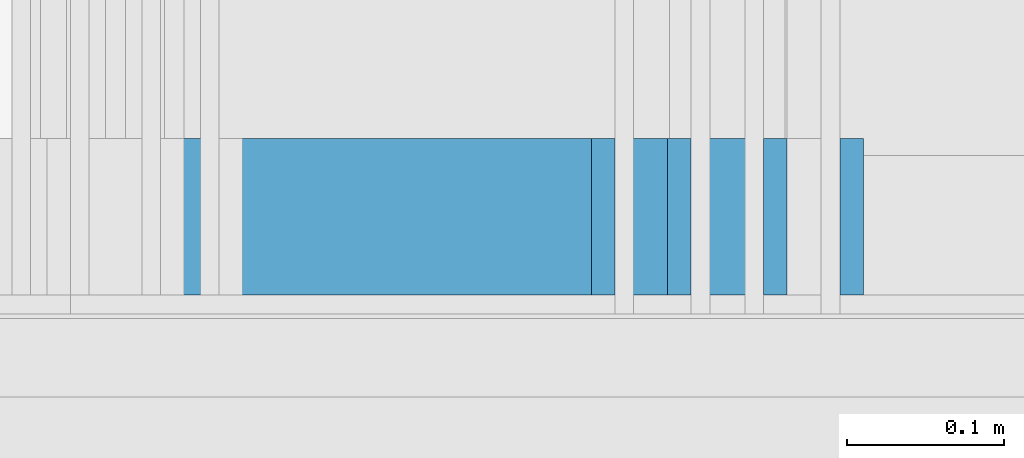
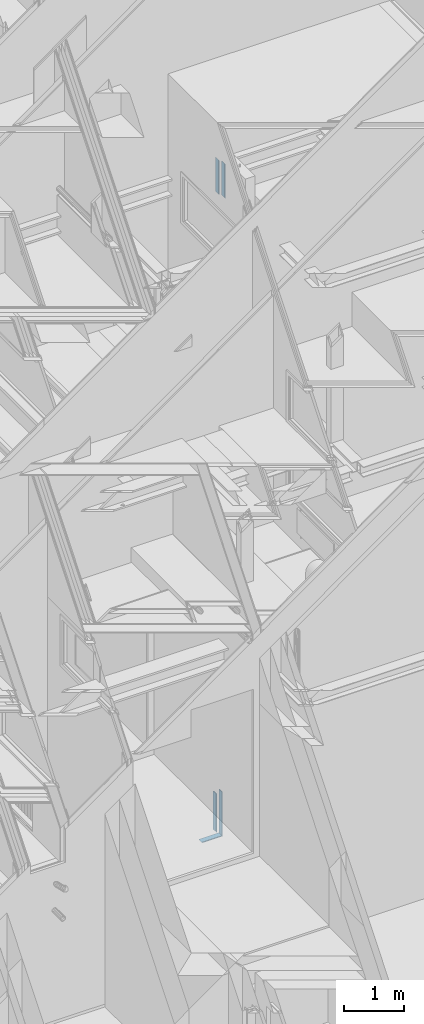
# One storey, part 233 of 583: 5 building element parts, 3 elements without a shape of their own.
"""IFC2X3 building model written with IfcOpenShell, lengths in metres."""

from ifc_helpers import new_model, entity, si_unit, converted_unit, derived_unit, money_unit, direction, frame, origin_with_axes, place, context, subcontext, project, spatial, polyline, outline, extrude, material, type_object, element, aggregate, save


model = new_model("IFC2X3")

# Units and contexts
model_context = context("Model", 3, precision=1e-05, world=origin_with_axes(), true_north=direction((0.0, 1.0)))
body_context = subcontext(model_context, "Body", "Model", "MODEL_VIEW", scale=1.0)
ifc_project = project(units=[si_unit("LENGTHUNIT", "METRE"), si_unit("AREAUNIT", "SQUARE_METRE"), si_unit("VOLUMEUNIT", "CUBIC_METRE"), si_unit("ABSORBEDDOSEUNIT", "GRAY"), si_unit("AMOUNTOFSUBSTANCEUNIT", "MOLE"), si_unit("DOSEEQUIVALENTUNIT", "SIEVERT"), si_unit("ELECTRICCAPACITANCEUNIT", "FARAD"), si_unit("ELECTRICCHARGEUNIT", "COULOMB"), si_unit("ELECTRICCONDUCTANCEUNIT", "SIEMENS"), si_unit("ELECTRICCURRENTUNIT", "AMPERE"), si_unit("ELECTRICRESISTANCEUNIT", "OHM"), si_unit("ELECTRICVOLTAGEUNIT", "VOLT"), si_unit("ENERGYUNIT", "JOULE"), si_unit("FORCEUNIT", "NEWTON"), si_unit("FREQUENCYUNIT", "HERTZ"), si_unit("ILLUMINANCEUNIT", "LUX"), si_unit("INDUCTANCEUNIT", "HENRY"), si_unit("LUMINOUSFLUXUNIT", "LUMEN"), si_unit("LUMINOUSINTENSITYUNIT", "CANDELA"), si_unit("MAGNETICFLUXDENSITYUNIT", "TESLA"), si_unit("MAGNETICFLUXUNIT", "WEBER"), si_unit("MASSUNIT", "GRAM"), converted_unit("PLANEANGLEUNIT", "degree", entity("IfcReal", 0.0174532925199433), si_unit("PLANEANGLEUNIT", "RADIAN"), dimensions=[0, 0, 0, 0, 0, 0, 0]), si_unit("POWERUNIT", "WATT"), si_unit("PRESSUREUNIT", "PASCAL"), si_unit("RADIOACTIVITYUNIT", "BECQUEREL"), si_unit("SOLIDANGLEUNIT", "STERADIAN"), si_unit("THERMODYNAMICTEMPERATUREUNIT", "KELVIN"), si_unit("TIMEUNIT", "SECOND"), derived_unit("ACCELERATIONUNIT", [(si_unit("LENGTHUNIT", "METRE"), 1), (si_unit("TIMEUNIT", "SECOND"), -2)]), derived_unit("ANGULARVELOCITYUNIT", [(converted_unit("PLANEANGLEUNIT", "degree", entity("IfcReal", 0.0174532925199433), si_unit("PLANEANGLEUNIT", "RADIAN"), dimensions=[0, 0, 0, 0, 0, 0, 0]), 1), (si_unit("TIMEUNIT", "SECOND"), -1)]), derived_unit("CURVATUREUNIT", [(converted_unit("PLANEANGLEUNIT", "degree", entity("IfcReal", 0.0174532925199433), si_unit("PLANEANGLEUNIT", "RADIAN"), dimensions=[0, 0, 0, 0, 0, 0, 0]), 1), (si_unit("LENGTHUNIT", "METRE"), -1)]), derived_unit("DYNAMICVISCOSITYUNIT", [(si_unit("PRESSUREUNIT", "PASCAL"), 1), (si_unit("TIMEUNIT", "SECOND"), 1)]), derived_unit("HEATFLUXDENSITYUNIT", [(si_unit("POWERUNIT", "WATT"), 1), (si_unit("LENGTHUNIT", "METRE"), -2)]), derived_unit("HEATINGVALUEUNIT", [(si_unit("ENERGYUNIT", "JOULE"), 1), (si_unit("MASSUNIT", "GRAM"), -1)]), derived_unit("INTEGERCOUNTRATEUNIT", [(si_unit("TIMEUNIT", "SECOND"), -1)]), derived_unit("IONCONCENTRATIONUNIT", [(si_unit("MASSUNIT", "GRAM"), 1), (si_unit("VOLUMEUNIT", "CUBIC_METRE"), -1)]), derived_unit("ISOTHERMALMOISTURECAPACITYUNIT", [(si_unit("VOLUMEUNIT", "CUBIC_METRE"), 1), (si_unit("MASSUNIT", "GRAM"), -1)]), derived_unit("KINEMATICVISCOSITYUNIT", [(si_unit("AREAUNIT", "SQUARE_METRE"), 1), (si_unit("TIMEUNIT", "SECOND"), -1)]), derived_unit("LINEARFORCEUNIT", [(si_unit("FORCEUNIT", "NEWTON"), 1), (si_unit("LENGTHUNIT", "METRE"), -1)]), derived_unit("LINEARMOMENTUNIT", [(si_unit("FORCEUNIT", "NEWTON"), 1), (si_unit("LENGTHUNIT", "METRE"), -1)]), derived_unit("LINEARSTIFFNESSUNIT", [(si_unit("FORCEUNIT", "NEWTON"), 1), (si_unit("LENGTHUNIT", "METRE"), -1)]), derived_unit("LINEARVELOCITYUNIT", [(si_unit("LENGTHUNIT", "METRE"), 1), (si_unit("TIMEUNIT", "SECOND"), -1)]), derived_unit("LUMINOUSINTENSITYDISTRIBUTIONUNIT", [(si_unit("LUMINOUSINTENSITYUNIT", "CANDELA"), 1), (si_unit("LUMINOUSFLUXUNIT", "LUMEN"), -1)]), derived_unit("MASSDENSITYUNIT", [(si_unit("MASSUNIT", "GRAM"), 1), (si_unit("VOLUMEUNIT", "CUBIC_METRE"), -1)]), derived_unit("MASSFLOWRATEUNIT", [(si_unit("MASSUNIT", "GRAM"), 1), (si_unit("TIMEUNIT", "SECOND"), -1)]), derived_unit("MASSPERLENGTHUNIT", [(si_unit("MASSUNIT", "GRAM"), 1), (si_unit("LENGTHUNIT", "METRE"), -1)]), derived_unit("MODULUSOFELASTICITYUNIT", [(si_unit("FORCEUNIT", "NEWTON"), 1), (si_unit("AREAUNIT", "SQUARE_METRE"), -1)]), derived_unit("MODULUSOFLINEARSUBGRADEREACTIONUNIT", [(si_unit("FORCEUNIT", "NEWTON"), 1), (si_unit("LENGTHUNIT", "METRE"), -2)]), derived_unit("MODULUSOFROTATIONALSUBGRADEREACTIONUNIT", [(si_unit("FORCEUNIT", "NEWTON"), 1), (si_unit("LENGTHUNIT", "METRE"), 1)]), derived_unit("MODULUSOFSUBGRADEREACTIONUNIT", [(si_unit("FORCEUNIT", "NEWTON"), 1), (si_unit("VOLUMEUNIT", "CUBIC_METRE"), -1)]), derived_unit("MOISTUREDIFFUSIVITYUNIT", [(si_unit("VOLUMEUNIT", "CUBIC_METRE"), 1), (si_unit("TIMEUNIT", "SECOND"), -1)]), derived_unit("MOLECULARWEIGHTUNIT", [(si_unit("MASSUNIT", "GRAM"), 1), (si_unit("AMOUNTOFSUBSTANCEUNIT", "MOLE"), -1)]), derived_unit("PLANARFORCEUNIT", [(si_unit("FORCEUNIT", "NEWTON"), 1), (si_unit("LENGTHUNIT", "METRE"), -2)]), derived_unit("ROTATIONALFREQUENCYUNIT", [(si_unit("TIMEUNIT", "SECOND"), -1)]), derived_unit("ROTATIONALMASSUNIT", [(si_unit("MASSUNIT", "GRAM"), 1), (si_unit("LENGTHUNIT", "METRE"), 2)]), derived_unit("ROTATIONALSTIFFNESSUNIT", [(si_unit("FORCEUNIT", "NEWTON"), 1), (si_unit("LENGTHUNIT", "METRE"), 1), (converted_unit("PLANEANGLEUNIT", "degree", entity("IfcReal", 0.0174532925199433), si_unit("PLANEANGLEUNIT", "RADIAN"), dimensions=[0, 0, 0, 0, 0, 0, 0]), -1)]), derived_unit("SECTIONAREAINTEGRALUNIT", [(si_unit("LENGTHUNIT", "METRE"), 5)]), derived_unit("SECTIONMODULUSUNIT", [(si_unit("LENGTHUNIT", "METRE"), 3)]), derived_unit("SHEARMODULUSUNIT", [(si_unit("FORCEUNIT", "NEWTON"), 1), (si_unit("AREAUNIT", "SQUARE_METRE"), -1)]), derived_unit("SOUNDPOWERUNIT", [(si_unit("ENERGYUNIT", "JOULE"), 1), (si_unit("TIMEUNIT", "SECOND"), -1)]), derived_unit("SPECIFICHEATCAPACITYUNIT", [(si_unit("FORCEUNIT", "NEWTON"), 1), (si_unit("MASSUNIT", "GRAM"), -1), (si_unit("THERMODYNAMICTEMPERATUREUNIT", "KELVIN"), -1)]), derived_unit("TEMPERATUREGRADIENTUNIT", [(si_unit("THERMODYNAMICTEMPERATUREUNIT", "KELVIN"), 1), (si_unit("LENGTHUNIT", "METRE"), -1)]), derived_unit("THERMALADMITTANCEUNIT", [(si_unit("POWERUNIT", "WATT"), 1), (si_unit("AREAUNIT", "SQUARE_METRE"), -1), (si_unit("THERMODYNAMICTEMPERATUREUNIT", "KELVIN"), -1)]), derived_unit("THERMALCONDUCTANCEUNIT", [(si_unit("POWERUNIT", "WATT"), 1), (si_unit("LENGTHUNIT", "METRE"), -1), (si_unit("THERMODYNAMICTEMPERATUREUNIT", "KELVIN"), -1)]), derived_unit("THERMALEXPANSIONCOEFFICIENTUNIT", [(si_unit("THERMODYNAMICTEMPERATUREUNIT", "KELVIN"), -1)]), derived_unit("THERMALRESISTANCEUNIT", [(si_unit("AREAUNIT", "SQUARE_METRE"), 1), (si_unit("POWERUNIT", "WATT"), -1)]), derived_unit("THERMALTRANSMITTANCEUNIT", [(si_unit("POWERUNIT", "WATT"), 1), (si_unit("AREAUNIT", "SQUARE_METRE"), -1), (si_unit("THERMODYNAMICTEMPERATUREUNIT", "KELVIN"), -1)]), derived_unit("TORQUEUNIT", [(si_unit("FORCEUNIT", "NEWTON"), 1), (si_unit("LENGTHUNIT", "METRE"), 1)]), derived_unit("VAPORPERMEABILITYUNIT", [(si_unit("MASSUNIT", "GRAM"), 1), (si_unit("TIMEUNIT", "SECOND"), -1)]), derived_unit("VOLUMETRICFLOWRATEUNIT", [(si_unit("VOLUMEUNIT", "CUBIC_METRE"), 1), (si_unit("TIMEUNIT", "SECOND"), -1)]), derived_unit("WARPINGCONSTANTUNIT", [(si_unit("LENGTHUNIT", "METRE"), 6)]), derived_unit("WARPINGMOMENTUNIT", [(si_unit("FORCEUNIT", "NEWTON"), 1), (si_unit("LENGTHUNIT", "METRE"), 2)]), money_unit("GBP")], contexts=[model_context])

# Site, building, storey
site_placement = place(None, origin_with_axes())
site = spatial("IfcSite", under=ifc_project, at=site_placement, Name="Site", CompositionType="ELEMENT")
building_placement = place(site_placement, origin_with_axes())
building = spatial("IfcBuilding", under=site, at=building_placement, Name="Building01", CompositionType="ELEMENT")
storey_placement = place(building_placement, frame((0.0, 0.0, 20.78), z_axis=(0.0, 0.0, 1.0), x_axis=(1.0, 0.0, 0.0)))
storey = spatial("IfcBuildingStorey", under=building, at=storey_placement, Name="RL", CompositionType="ELEMENT", Elevation=20.78)

# Wall, building element parts
wall_type = type_object("IfcWallType", Name="SHE_A-Walls_Type05a_Partition_95mm_tall", PredefinedType="NOTDEFINED")
wall_1_placement = place(storey_placement, frame((12.099378, 12.13, -1.694716), z_axis=(0.0, 1.0, 0.0), x_axis=(0.0, 0.0, 1.0)))
wall_1 = element("IfcWall", 1, at=wall_1_placement, inside=storey, type_object=wall_type, Name="5A", ObjectType="SHE_A-Walls_Type05a_Partition_95mm_tall")
ifc_material = material(Name="A_BSUK_Walls_Timber")
placement_1 = place(wall_1_placement, origin_with_axes())
building_element_part_1 = element("IfcBuildingElementPart", 2, at=placement_1, material=ifc_material, Name="2", context=body_context, shape_type="SweptSolid", body=[
    extrude(outline(polyline([(0.614716, 0.075), (-0.075, 0.075), (-0.06, 0.06), (0.629716, 0.06), (0.614716, 0.075)])), frame((0.0, 0.0, 0.015), z_axis=(0.0, 0.0, 1.0), x_axis=(1.0, 0.0, 0.0)), (0.0, 0.0, 1.0), 0.1),
])
building_element_part_2 = element("IfcBuildingElementPart", 3, at=placement_1, material=ifc_material, Name="3", context=body_context, shape_type="SweptSolid", body=[
    extrude(outline(polyline([(0.724716, -0.035), (0.035, -0.035), (0.05, -0.05), (0.739716, -0.05), (0.724716, -0.035)])), frame((0.0, 0.0, 0.015), z_axis=(0.0, 0.0, 1.0), x_axis=(1.0, 0.0, 0.0)), (0.0, 0.0, 1.0), 0.1),
])
aggregate(wall_1, [building_element_part_1, building_element_part_2])

# Wall, building element part
wall_2_placement = place(storey_placement, frame((11.66567, 12.13, -14.550331), z_axis=(0.0, 1.0, 0.0), x_axis=(1.0, 0.0, 0.0)))
wall_2 = element("IfcWall", 4, at=wall_2_placement, inside=storey, type_object=wall_type, Name="5A", ObjectType="SHE_A-Walls_Type05a_Partition_95mm_tall")
building_element_part_3_placement = place(wall_2_placement, origin_with_axes())
building_element_part_3 = element("IfcBuildingElementPart", 5, at=building_element_part_3_placement, material=ifc_material, Name="2", context=body_context, shape_type="SweptSolid", body=[
    extrude(outline(polyline([(0.46, 0.075), (0.075, 0.075), (0.06, 0.06), (0.445, 0.06), (0.46, 0.075)])), frame((0.0, 0.0, 0.015), z_axis=(0.0, 0.0, 1.0), x_axis=(1.0, 0.0, 0.0)), (0.0, 0.0, 1.0), 0.1),
])
aggregate(wall_2, [building_element_part_3])

# Wall, building element parts
wall_3_placement = place(storey_placement, frame((12.05067, 12.13, -14.550331), z_axis=(0.0, 1.0, 0.0), x_axis=(0.0, 0.0, 1.0)))
wall_3 = element("IfcWall", 6, at=wall_3_placement, inside=storey, type_object=wall_type, Name="5A", ObjectType="SHE_A-Walls_Type05a_Partition_95mm_tall")
placement_2 = place(wall_3_placement, origin_with_axes())
building_element_part_4 = element("IfcBuildingElementPart", 7, at=placement_2, material=ifc_material, Name="2", context=body_context, shape_type="SweptSolid", body=[
    extrude(outline(polyline([(0.82, 0.075), (-0.075, 0.075), (-0.06, 0.06), (0.82, 0.06), (0.82, 0.075)])), frame((0.0, 0.0, 0.015), z_axis=(0.0, 0.0, 1.0), x_axis=(1.0, 0.0, 0.0)), (0.0, 0.0, 1.0), 0.1),
])
building_element_part_5 = element("IfcBuildingElementPart", 8, at=placement_2, material=ifc_material, Name="3", context=body_context, shape_type="SweptSolid", body=[
    extrude(outline(polyline([(0.82, -0.035), (0.035, -0.035), (0.05, -0.05), (0.82, -0.05), (0.82, -0.035)])), frame((0.0, 0.0, 0.015), z_axis=(0.0, 0.0, 1.0), x_axis=(1.0, 0.0, 0.0)), (0.0, 0.0, 1.0), 0.1),
])
aggregate(wall_3, [building_element_part_4, building_element_part_5])

save(model, "model.ifc")
